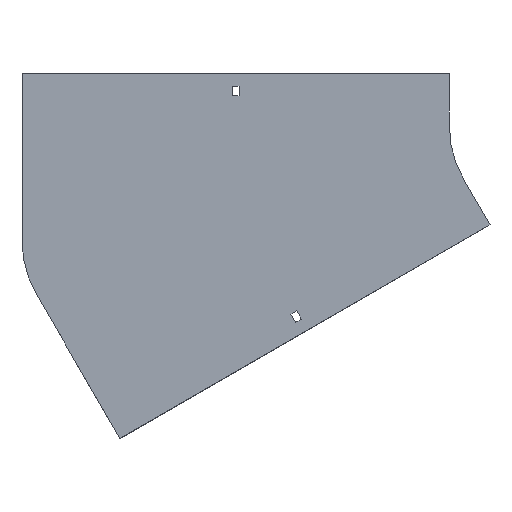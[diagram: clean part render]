
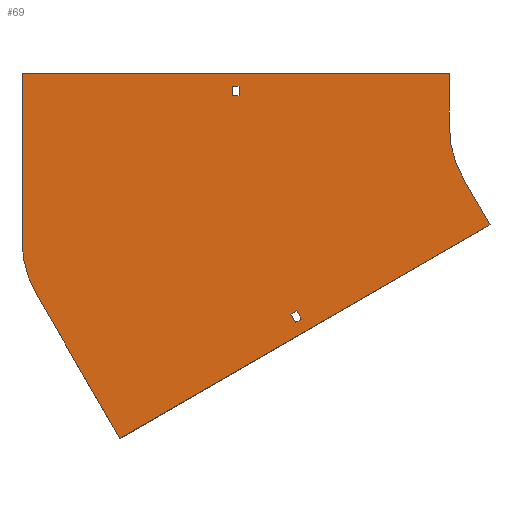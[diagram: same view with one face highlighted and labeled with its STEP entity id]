
A CAD part, front view. The second image highlights one B-rep face of the part: STEP entity #69.
In plain terms, the highlighted planar face has unit normal (0, -1, 0).
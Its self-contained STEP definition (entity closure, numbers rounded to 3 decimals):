
#46 = VERTEX_POINT ( 'NONE', #177 ) ;
#50 = LINE ( 'NONE', #1393, #253 ) ;
#62 = EDGE_CURVE ( 'NONE', #1542, #656, #1428, .T. ) ;
#69 = ADVANCED_FACE ( 'NONE', ( #474, #351, #1652 ), #936, .T. ) ;
#78 = ORIENTED_EDGE ( 'NONE', *, *, #1049, .F. ) ;
#80 = CARTESIAN_POINT ( 'NONE',  ( -411.477, 0., -295.301 ) ) ;
#102 = LINE ( 'NONE', #80, #1111 ) ;
#105 = CARTESIAN_POINT ( 'NONE',  ( -245.354, 0., -185.534 ) ) ;
#114 = LINE ( 'NONE', #456, #1234 ) ;
#147 = CARTESIAN_POINT ( 'NONE',  ( -298.75, 0., 38. ) ) ;
#157 = DIRECTION ( 'NONE',  ( 0., 0., -1. ) ) ;
#177 = CARTESIAN_POINT ( 'NONE',  ( -61.603, 0., -93.301 ) ) ;
#197 = DIRECTION ( 'NONE',  ( -0.866, 0., -0.5 ) ) ;
#199 = ORIENTED_EDGE ( 'NONE', *, *, #993, .F. ) ;
#200 = CARTESIAN_POINT ( 'NONE',  ( 0., 0., 0. ) ) ;
#203 = VERTEX_POINT ( 'NONE', #974 ) ;
#207 = AXIS2_PLACEMENT_3D ( 'NONE', #200, #485, #947 ) ;
#210 = ORIENTED_EDGE ( 'NONE', *, *, #1562, .T. ) ;
#213 = DIRECTION ( 'NONE',  ( 0., 0., 1. ) ) ;
#218 = EDGE_CURVE ( 'NONE', #927, #1483, #1118, .T. ) ;
#221 = ORIENTED_EDGE ( 'NONE', *, *, #1377, .F. ) ;
#253 = VECTOR ( 'NONE', #646, 1000. ) ;
#264 = CARTESIAN_POINT ( 'NONE',  ( -504., 0., 50. ) ) ;
#268 = CARTESIAN_POINT ( 'NONE',  ( -504., 0., -108.251 ) ) ;
#269 = ORIENTED_EDGE ( 'NONE', *, *, #1535, .F. ) ;
#277 = LINE ( 'NONE', #887, #1291 ) ;
#312 = LINE ( 'NONE', #1500, #1790 ) ;
#316 = VECTOR ( 'NONE', #859, 1000. ) ;
#351 = FACE_OUTER_BOUND ( 'NONE', #1718, .T. ) ;
#367 = EDGE_CURVE ( 'NONE', #1004, #1603, #1477, .T. ) ;
#431 = CARTESIAN_POINT ( 'NONE',  ( -86.603, 0., -50. ) ) ;
#453 = ORIENTED_EDGE ( 'NONE', *, *, #367, .T. ) ;
#456 = CARTESIAN_POINT ( 'NONE',  ( -504., 0., 50. ) ) ;
#474 = FACE_BOUND ( 'NONE', #1077, .T. ) ;
#477 = CARTESIAN_POINT ( 'NONE',  ( -244.225, 0., -174.49 ) ) ;
#478 = VECTOR ( 'NONE', #847, 1000. ) ;
#485 = DIRECTION ( 'NONE',  ( 0., -1., 0. ) ) ;
#519 = CARTESIAN_POINT ( 'NONE',  ( -100., 0., 50. ) ) ;
#543 = CARTESIAN_POINT ( 'NONE',  ( -298.75, 0., 29. ) ) ;
#565 = LINE ( 'NONE', #1150, #316 ) ;
#570 = ORIENTED_EDGE ( 'NONE', *, *, #62, .F. ) ;
#597 = DIRECTION ( 'NONE',  ( -0.866, 0., -0.5 ) ) ;
#615 = VECTOR ( 'NONE', #788, 1000. ) ;
#618 = VERTEX_POINT ( 'NONE', #264 ) ;
#622 = CARTESIAN_POINT ( 'NONE',  ( -305.25, 0., 38. ) ) ;
#634 = AXIS2_PLACEMENT_3D ( 'NONE', #1411, #783, #213 ) ;
#636 = DIRECTION ( 'NONE',  ( 0., 0., -1. ) ) ;
#646 = DIRECTION ( 'NONE',  ( 0., 0., 1. ) ) ;
#651 = LINE ( 'NONE', #1861, #1415 ) ;
#656 = VERTEX_POINT ( 'NONE', #1855 ) ;
#680 = EDGE_CURVE ( 'NONE', #1603, #1494, #1380, .T. ) ;
#724 = CARTESIAN_POINT ( 'NONE',  ( -305.25, 0., 29. ) ) ;
#736 = EDGE_LOOP ( 'NONE', ( #1100, #967, #1209, #1198 ) ) ;
#765 = DIRECTION ( 'NONE',  ( 1., 0., 0. ) ) ;
#783 = DIRECTION ( 'NONE',  ( 0., 1., 0. ) ) ;
#788 = DIRECTION ( 'NONE',  ( 1., 0., 0. ) ) ;
#790 = CIRCLE ( 'NONE', #634, 100. ) ;
#795 = EDGE_CURVE ( 'NONE', #46, #1804, #942, .T. ) ;
#817 = ORIENTED_EDGE ( 'NONE', *, *, #680, .T. ) ;
#847 = DIRECTION ( 'NONE',  ( -1., 0., 0. ) ) ;
#859 = DIRECTION ( 'NONE',  ( 0., 0., -1. ) ) ;
#871 = ORIENTED_EDGE ( 'NONE', *, *, #795, .F. ) ;
#876 = DIRECTION ( 'NONE',  ( 0.5, 0., -0.866 ) ) ;
#887 = CARTESIAN_POINT ( 'NONE',  ( -249.854, 0., -177.74 ) ) ;
#899 = CARTESIAN_POINT ( 'NONE',  ( -100., 0., 0. ) ) ;
#907 = CARTESIAN_POINT ( 'NONE',  ( -305.25, 0., 38. ) ) ;
#925 = CARTESIAN_POINT ( 'NONE',  ( 0., 0., 0. ) ) ;
#927 = VERTEX_POINT ( 'NONE', #105 ) ;
#936 = PLANE ( 'NONE',  #207 ) ;
#942 = LINE ( 'NONE', #1537, #1554 ) ;
#947 = DIRECTION ( 'NONE',  ( 0., 0., -1. ) ) ;
#967 = ORIENTED_EDGE ( 'NONE', *, *, #1717, .F. ) ;
#974 = CARTESIAN_POINT ( 'NONE',  ( -490.603, 0., -158.251 ) ) ;
#993 = EDGE_CURVE ( 'NONE', #1041, #1542, #565, .T. ) ;
#1004 = VERTEX_POINT ( 'NONE', #724 ) ;
#1013 = ORIENTED_EDGE ( 'NONE', *, *, #1771, .F. ) ;
#1026 = DIRECTION ( 'NONE',  ( 0.5, 0., -0.866 ) ) ;
#1041 = VERTEX_POINT ( 'NONE', #519 ) ;
#1049 = EDGE_CURVE ( 'NONE', #1924, #618, #50, .T. ) ;
#1077 = EDGE_LOOP ( 'NONE', ( #453, #817, #210, #1834 ) ) ;
#1100 = ORIENTED_EDGE ( 'NONE', *, *, #218, .F. ) ;
#1111 = VECTOR ( 'NONE', #1749, 1000. ) ;
#1118 = LINE ( 'NONE', #1549, #1337 ) ;
#1149 = VERTEX_POINT ( 'NONE', #477 ) ;
#1150 = CARTESIAN_POINT ( 'NONE',  ( -100., 0., 50. ) ) ;
#1183 = LINE ( 'NONE', #1773, #1265 ) ;
#1187 = VECTOR ( 'NONE', #1640, 1000. ) ;
#1198 = ORIENTED_EDGE ( 'NONE', *, *, #1288, .F. ) ;
#1209 = ORIENTED_EDGE ( 'NONE', *, *, #1449, .F. ) ;
#1234 = VECTOR ( 'NONE', #765, 1000. ) ;
#1255 = DIRECTION ( 'NONE',  ( -0.5, 0., 0.866 ) ) ;
#1265 = VECTOR ( 'NONE', #597, 1000. ) ;
#1288 = EDGE_CURVE ( 'NONE', #1483, #1149, #651, .T. ) ;
#1291 = VECTOR ( 'NONE', #876, 1000. ) ;
#1312 = VERTEX_POINT ( 'NONE', #543 ) ;
#1337 = VECTOR ( 'NONE', #1558, 1000. ) ;
#1363 = LINE ( 'NONE', #431, #1700 ) ;
#1372 = DIRECTION ( 'NONE',  ( 0., -1., 0. ) ) ;
#1377 = EDGE_CURVE ( 'NONE', #1804, #203, #102, .T. ) ;
#1380 = LINE ( 'NONE', #622, #615 ) ;
#1393 = CARTESIAN_POINT ( 'NONE',  ( -504., 0., -108.251 ) ) ;
#1411 = CARTESIAN_POINT ( 'NONE',  ( -404., 0., -108.251 ) ) ;
#1415 = VECTOR ( 'NONE', #1255, 1000. ) ;
#1428 = CIRCLE ( 'NONE', #1810, 100. ) ;
#1429 = EDGE_CURVE ( 'NONE', #1312, #1004, #1589, .T. ) ;
#1449 = EDGE_CURVE ( 'NONE', #1149, #1856, #1183, .T. ) ;
#1477 = LINE ( 'NONE', #1789, #1187 ) ;
#1483 = VERTEX_POINT ( 'NONE', #1927 ) ;
#1494 = VERTEX_POINT ( 'NONE', #147 ) ;
#1500 = CARTESIAN_POINT ( 'NONE',  ( -298.75, 0., 29. ) ) ;
#1535 = EDGE_CURVE ( 'NONE', #618, #1041, #114, .T. ) ;
#1537 = CARTESIAN_POINT ( 'NONE',  ( -61.603, 0., -93.301 ) ) ;
#1542 = VERTEX_POINT ( 'NONE', #899 ) ;
#1549 = CARTESIAN_POINT ( 'NONE',  ( -245.354, 0., -185.534 ) ) ;
#1554 = VECTOR ( 'NONE', #197, 1000. ) ;
#1558 = DIRECTION ( 'NONE',  ( 0.866, 0., 0.5 ) ) ;
#1562 = EDGE_CURVE ( 'NONE', #1494, #1312, #312, .T. ) ;
#1568 = CARTESIAN_POINT ( 'NONE',  ( -249.854, 0., -177.74 ) ) ;
#1589 = LINE ( 'NONE', #1911, #478 ) ;
#1603 = VERTEX_POINT ( 'NONE', #907 ) ;
#1640 = DIRECTION ( 'NONE',  ( 0., 0., 1. ) ) ;
#1652 = FACE_BOUND ( 'NONE', #736, .T. ) ;
#1665 = ORIENTED_EDGE ( 'NONE', *, *, #1707, .F. ) ;
#1700 = VECTOR ( 'NONE', #1026, 1000. ) ;
#1706 = CARTESIAN_POINT ( 'NONE',  ( -411.477, 0., -295.301 ) ) ;
#1707 = EDGE_CURVE ( 'NONE', #656, #46, #1363, .T. ) ;
#1717 = EDGE_CURVE ( 'NONE', #1856, #927, #277, .T. ) ;
#1718 = EDGE_LOOP ( 'NONE', ( #269, #78, #1013, #221, #871, #1665, #570, #199 ) ) ;
#1749 = DIRECTION ( 'NONE',  ( -0.5, 0., 0.866 ) ) ;
#1771 = EDGE_CURVE ( 'NONE', #203, #1924, #790, .T. ) ;
#1773 = CARTESIAN_POINT ( 'NONE',  ( -249.854, 0., -177.74 ) ) ;
#1789 = CARTESIAN_POINT ( 'NONE',  ( -305.25, 0., 29. ) ) ;
#1790 = VECTOR ( 'NONE', #157, 1000. ) ;
#1804 = VERTEX_POINT ( 'NONE', #1706 ) ;
#1810 = AXIS2_PLACEMENT_3D ( 'NONE', #925, #1372, #636 ) ;
#1834 = ORIENTED_EDGE ( 'NONE', *, *, #1429, .T. ) ;
#1855 = CARTESIAN_POINT ( 'NONE',  ( -86.603, 0., -50. ) ) ;
#1856 = VERTEX_POINT ( 'NONE', #1568 ) ;
#1861 = CARTESIAN_POINT ( 'NONE',  ( -244.225, 0., -174.49 ) ) ;
#1911 = CARTESIAN_POINT ( 'NONE',  ( -305.25, 0., 29. ) ) ;
#1924 = VERTEX_POINT ( 'NONE', #268 ) ;
#1927 = CARTESIAN_POINT ( 'NONE',  ( -239.725, 0., -182.284 ) ) ;
